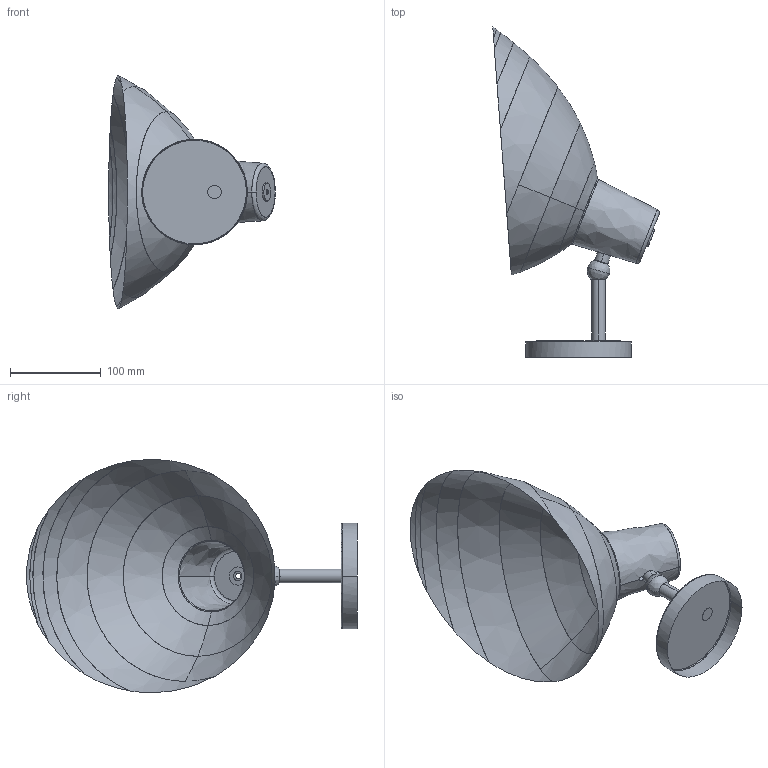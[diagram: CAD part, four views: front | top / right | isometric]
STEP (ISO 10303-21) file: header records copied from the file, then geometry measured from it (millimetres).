
FILE_DESCRIPTION(/* description */ (''),/* implementation_level */ '2;1');
FILE_NAME(/* name */ 'VV Cinquanta Wall CAD',/* time_stamp */ '2017-06-09T12:18:14+02:00',/* author */ (''),/* organization */ (''),/* preprocessor_version */ 'ST-DEVELOPER v15',/* originating_system */ '',/* authorisation */ '');
FILE_SCHEMA (('AUTOMOTIVE_DESIGN'));
Length unit declared in the file: millimetre
Products named in the file (1): Document
Bounding box: 183.3 x 364 x 256.79 mm (x, y, z)
Volume: 13725.2 mm3; surface area: 121995.9 mm2
Topology: 2 solids, 21 shells, 38 faces, 122 edges, 92 vertices
Faces by surface type: bspline 31, plane 7
Entity records: 2051 total; most frequent: CARTESIAN_POINT 1269, ORIENTED_EDGE 154, EDGE_CURVE 118, VERTEX_POINT 92, EDGE_LOOP 40, ADVANCED_FACE 38, FACE_OUTER_BOUND 38, COLOUR_RGB 21
